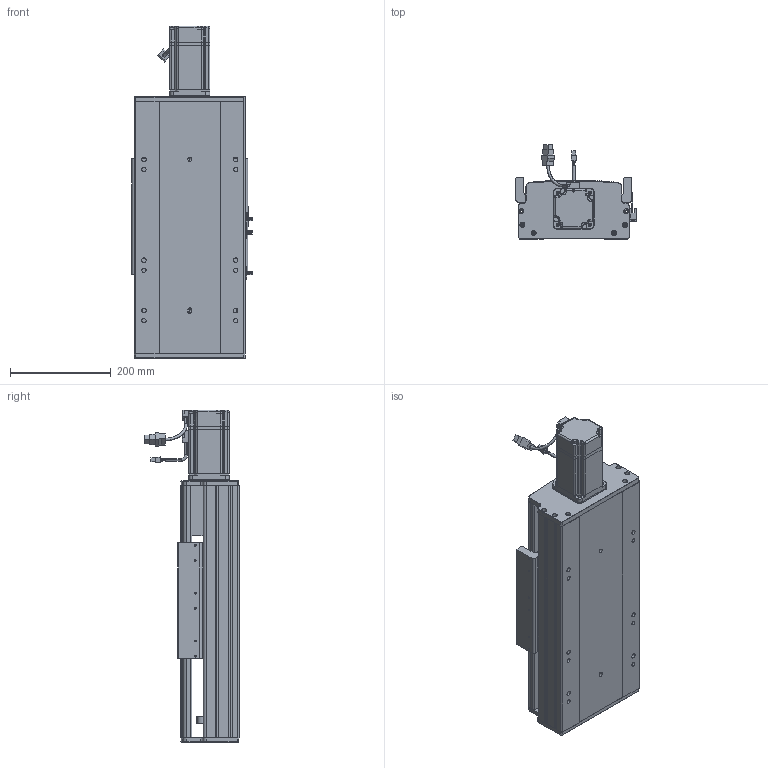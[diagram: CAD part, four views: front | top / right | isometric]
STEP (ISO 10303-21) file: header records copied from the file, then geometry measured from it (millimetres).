
FILE_DESCRIPTION (( 'STEP AP203' ), '1' );
FILE_NAME ('RY220-L2525-300-MK.SLDASM_100.step', '2022-07-04T02:57:06', ( '' ), ( '' ), 'SwSTEP 2.0', 'SolidWorks 2016', '' );
FILE_SCHEMA (( 'CONFIG_CONTROL_DESIGN' ));
Length unit declared in the file: millimetre
Products named in the file (12): RY220电机支撑座FK20（PCD90M6）; RY220-俋离672覜茼んえ; 滅袉蝶18-15; RY220ヶ裔啣; RY220菁釱MK-300_100; RY220-L2525-300-MK.SLDASM_100; RY220綴裔啣; RY220半封闭25-32螺母铝滑块; RY220-300-奻裔啣-MK_100; 怢湛750W_ECMA-CX0807ES; 覜茼ん672; 滅袉蝶18-12
Assembly tree (15 placements, depth 2):
  RY220-L2525-300-MK.SLDASM_100
    RY220菁釱MK-300_100
    RY220电机支撑座FK20（PCD90M6）
    怢湛750W_ECMA-CX0807ES
    滅袉蝶18-12  x2
    RY220ヶ裔啣
    RY220綴裔啣
    覜茼ん672  x3
    RY220半封闭25-32螺母铝滑块
    RY220-300-奻裔啣-MK_100
    RY220-俋离672覜茼んえ
    滅袉蝶18-15  x2
Bounding box: 238.7 x 187.27 x 658.3 mm (x, y, z)
Volume: 6546221.8 mm3; surface area: 1534092.4 mm2
Topology: 16 solids, 16 shells, 2038 faces, 5642 edges, 3594 vertices
Faces by surface type: plane 907, cylinder 880, cone 189, bspline 36, sphere 16, torus 10
Entity records: 66866 total; most frequent: CARTESIAN_POINT 19187, ORIENTED_EDGE 9944, DIRECTION 9251, EDGE_CURVE 4972, VERTEX_POINT 3250, AXIS2_PLACEMENT_3D 3203, VECTOR 2845, LINE 2845
